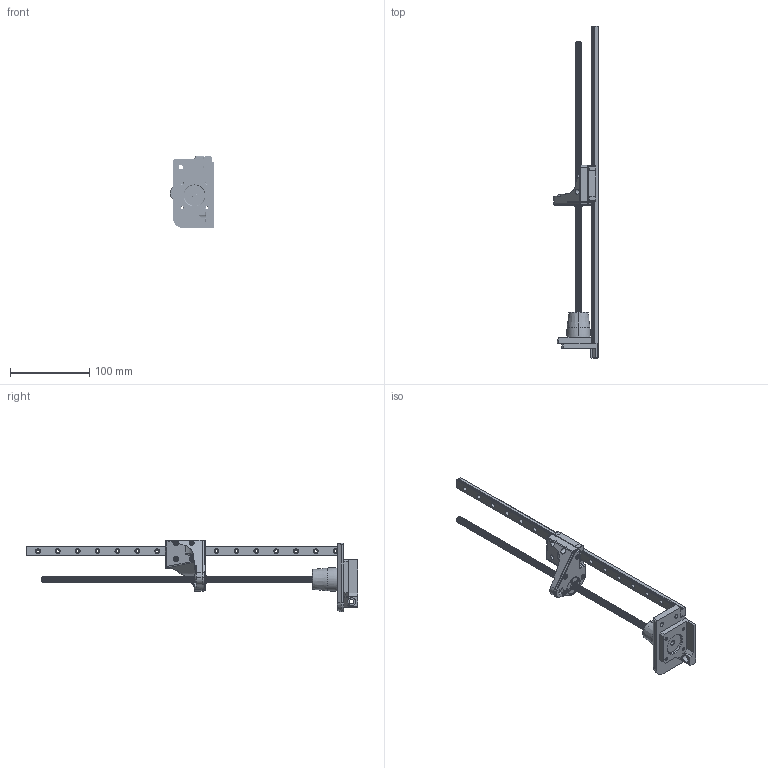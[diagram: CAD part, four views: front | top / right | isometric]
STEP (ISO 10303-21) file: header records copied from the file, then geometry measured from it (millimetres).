
FILE_DESCRIPTION (( 'STEP AP214' ), '1' );
FILE_NAME ('ass_b2v_movimento_z_sx.STEP', '2024-01-16T13:07:42', ( '' ), ( '' ), 'SwSTEP 2.0', 'SolidWorks 2022', '' );
FILE_SCHEMA (( 'AUTOMOTIVE_DESIGN' ));
Length unit declared in the file: millimetre
Products named in the file (13): b2v_supporto_nema_sx; reggispinta; b2v_carrello_sx_cover; ass_b2v_movimento_z_sx; trapezia_c_t8; b2v_carrello_sx_mgn12; MGN12H_Pattino; b2v_cover_giunto; trapezia_v_t8; MGN12_400_По умолчанию; Guida_Pattino_MGN12; accopiamento; b2v_pillow_block
Assembly tree (12 placements, depth 3):
  ass_b2v_movimento_z_sx
    b2v_supporto_nema_sx
    trapezia_v_t8
    Guida_Pattino_MGN12
      MGN12_400_По умолчанию
      MGN12H_Pattino
    b2v_carrello_sx_mgn12
    trapezia_c_t8
    b2v_carrello_sx_cover
    b2v_pillow_block
    reggispinta
    accopiamento
    b2v_cover_giunto
Bounding box: 56.3 x 418 x 90.6 mm (x, y, z)
Volume: 160052.9 mm3; surface area: 89166.7 mm2
Topology: 25 solids, 27 shells, 1431 faces, 3872 edges, 2490 vertices
Faces by surface type: cylinder 738, plane 407, cone 145, torus 62, bspline 44, sphere 35
Entity records: 89491 total; most frequent: CARTESIAN_POINT 53169, ORIENTED_EDGE 7558, DIRECTION 6594, EDGE_CURVE 3779, AXIS2_PLACEMENT_3D 2453, VERTEX_POINT 2442, LINE 1688, VECTOR 1688
